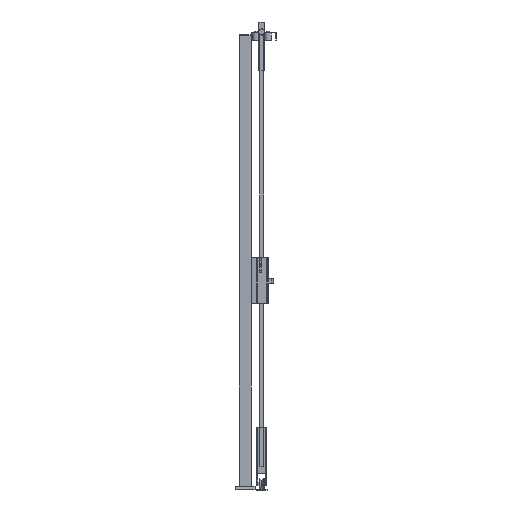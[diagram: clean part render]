
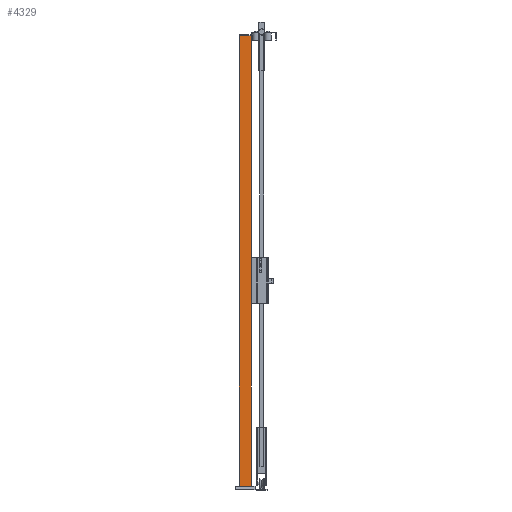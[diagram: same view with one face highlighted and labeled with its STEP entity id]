
A CAD part, left-side view. The second image highlights one B-rep face of the part: STEP entity #4329.
In plain terms, the highlighted planar face has unit normal (-1, 0, 0) as drawn and (0, 1, 0) by its records, which use the part's own axes.
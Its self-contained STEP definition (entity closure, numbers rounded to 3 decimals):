
#498=FACE_OUTER_BOUND('',#813,.T.);
#813=EDGE_LOOP('',(#2726,#2727,#2728,#2729));
#1169=VERTEX_POINT('',#9084);
#1170=VERTEX_POINT('',#9086);
#1172=VERTEX_POINT('',#9092);
#1175=VERTEX_POINT('',#9097);
#1787=EDGE_CURVE('',#1169,#1170,#5065,.T.);
#1793=EDGE_CURVE('',#1175,#1172,#5071,.T.);
#1796=EDGE_CURVE('',#1170,#1175,#5074,.T.);
#1797=EDGE_CURVE('',#1169,#1172,#5075,.T.);
#2726=ORIENTED_EDGE('',*,*,#1797,.T.);
#2727=ORIENTED_EDGE('',*,*,#1793,.F.);
#2728=ORIENTED_EDGE('',*,*,#1796,.F.);
#2729=ORIENTED_EDGE('',*,*,#1787,.F.);
#4060=PLANE('',#6434);
#4329=ADVANCED_FACE('',(#498),#4060,.F.);
#5065=LINE('',#9087,#5799);
#5071=LINE('',#9099,#5805);
#5074=LINE('',#9104,#5808);
#5075=LINE('',#9106,#5809);
#5799=VECTOR('',#7166,1.);
#5805=VECTOR('',#7174,1.);
#5808=VECTOR('',#7181,1.);
#5809=VECTOR('',#7184,1.);
#6434=AXIS2_PLACEMENT_3D('',#9105,#7182,#7183);
#7166=DIRECTION('',(-1.,0.,0.));
#7174=DIRECTION('',(1.,0.,0.));
#7181=DIRECTION('',(0.,0.,-1.));
#7182=DIRECTION('center_axis',(0.,-1.,0.));
#7183=DIRECTION('ref_axis',(0.,0.,-1.));
#7184=DIRECTION('',(0.,0.,-1.));
#9084=CARTESIAN_POINT('',(30.,30.,2320.));
#9086=CARTESIAN_POINT('',(-30.,30.,2320.));
#9087=CARTESIAN_POINT('',(0.,30.,2320.));
#9092=CARTESIAN_POINT('',(30.,30.,20.));
#9097=CARTESIAN_POINT('',(-30.,30.,20.));
#9099=CARTESIAN_POINT('',(0.,30.,20.));
#9104=CARTESIAN_POINT('',(-30.,30.,1170.));
#9105=CARTESIAN_POINT('Origin',(0.,30.,
1170.));
#9106=CARTESIAN_POINT('',(30.,30.,1170.));
